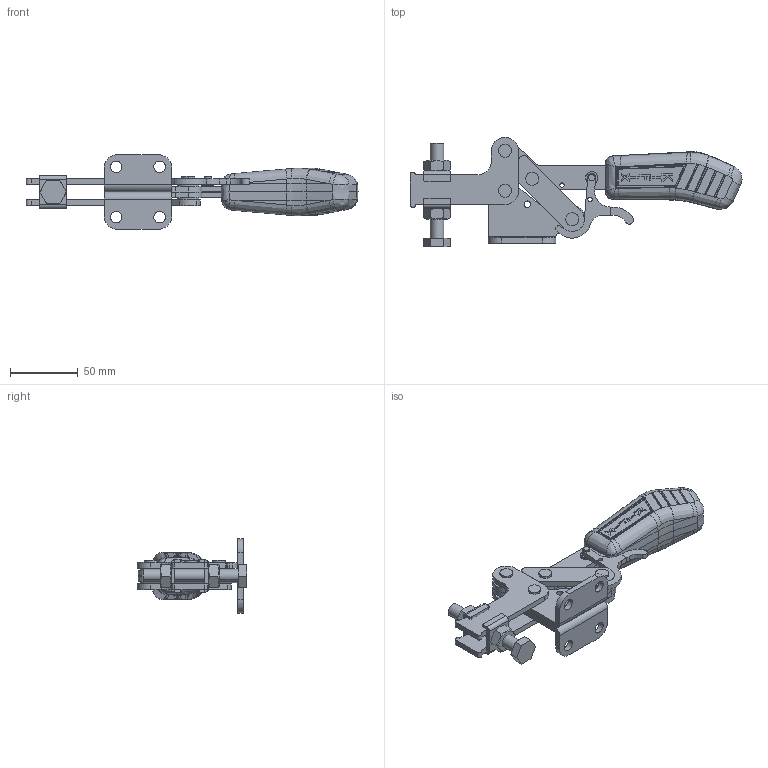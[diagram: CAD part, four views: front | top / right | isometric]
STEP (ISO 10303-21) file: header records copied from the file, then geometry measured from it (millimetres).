
FILE_DESCRIPTION (( 'STEP AP203' ), '1' );
FILE_NAME ('KF-531 DTR.STEP', '2014-08-18T14:12:42', ( 'Ricardo' ), ( '' ), 'SwSTEP 2.0', 'SolidWorks 2013', '' );
FILE_SCHEMA (( 'CONFIG_CONTROL_DESIGN' ));
Length unit declared in the file: millimetre
Products named in the file (15): 07.60002; 14.10003; 12.50021; 02.12035_Direita; 11.50003; 02.12035_Esquerda; 17.50002; 01.10135; 18.10020; 03.13018; 17.50013; 08.10008; 3670000096; 06.50026; KF-531 DTR
Assembly tree (30 placements, depth 2):
  KF-531 DTR
    02.12035_Direita
    02.12035_Esquerda
    01.10135  x2
    03.13018  x2
    08.10008  x2
    06.50026  x4
    07.60002
    14.10003  x2
    12.50021
    11.50003  x2
    17.50002  x8
    18.10020
    17.50013  x2
    3670000096
Bounding box: 244.69 x 80.75 x 55 mm (x, y, z)
Volume: 181224.6 mm3; surface area: 80369.5 mm2
Topology: 30 solids, 30 shells, 874 faces, 2127 edges, 1323 vertices
Faces by surface type: plane 289, cylinder 263, bspline 159, cone 108, sphere 52, torus 3
Entity records: 25131 total; most frequent: CARTESIAN_POINT 9108, ORIENTED_EDGE 3160, DIRECTION 2557, EDGE_CURVE 1580, VERTEX_POINT 998, AXIS2_PLACEMENT_3D 980, EDGE_LOOP 708, ADVANCED_FACE 634
